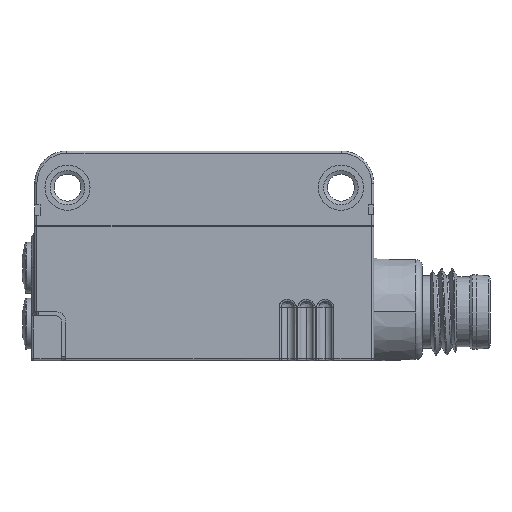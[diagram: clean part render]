
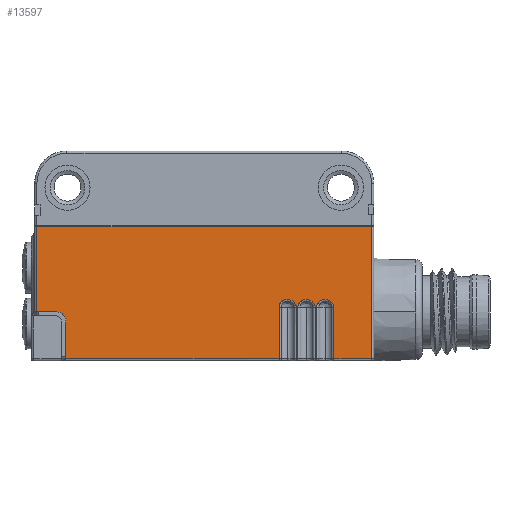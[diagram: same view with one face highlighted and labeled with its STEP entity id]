
A CAD part, left-side view. The second image highlights one B-rep face of the part: STEP entity #13597.
In plain terms, the highlighted planar face has unit normal (-1, 0, 0).
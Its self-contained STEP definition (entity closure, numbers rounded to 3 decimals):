
#2734=LINE('',#73193,#6713);
#4040=LINE('',#84570,#8325);
#4041=LINE('',#84572,#8326);
#4042=LINE('',#84589,#8327);
#4043=LINE('',#84591,#8328);
#4044=LINE('',#84593,#8329);
#4045=LINE('',#84610,#8330);
#4046=LINE('',#84612,#8331);
#4047=LINE('',#84614,#8332);
#4048=LINE('',#84631,#8333);
#4049=LINE('',#84633,#8334);
#4050=LINE('',#84635,#8335);
#4051=LINE('',#84637,#8336);
#4052=LINE('',#84639,#8337);
#6713=VECTOR('',#54893,1.);
#8325=VECTOR('',#57787,1.);
#8326=VECTOR('',#57790,1.);
#8327=VECTOR('',#57791,1.);
#8328=VECTOR('',#57792,1.);
#8329=VECTOR('',#57793,1.);
#8330=VECTOR('',#57794,1.);
#8331=VECTOR('',#57795,1.);
#8332=VECTOR('',#57796,1.);
#8333=VECTOR('',#57797,1.);
#8334=VECTOR('',#57798,1.);
#8335=VECTOR('',#57799,1.);
#8336=VECTOR('',#57800,1.);
#8337=VECTOR('',#57801,1.);
#10831=CIRCLE('',#49106,1.);
#10857=CIRCLE('',#49145,1309.533);
#13597=ADVANCED_FACE('',(#17391),#15313,.T.);
#15313=PLANE('',#49746);
#17391=FACE_OUTER_BOUND('',#20023,.T.);
#20023=EDGE_LOOP('',(#28780,#28781,#28782,#28783,#28784,#28785,#28786,#28787,
#28788,#28789,#28790,#28791,#28792,#28793,#28794,#28795,#28796,#28797,#28798));
#28780=ORIENTED_EDGE('',*,*,#41405,.F.);
#28781=ORIENTED_EDGE('',*,*,#41329,.F.);
#28782=ORIENTED_EDGE('',*,*,#41315,.F.);
#28783=ORIENTED_EDGE('',*,*,#43454,.T.);
#28784=ORIENTED_EDGE('',*,*,#43455,.T.);
#28785=ORIENTED_EDGE('',*,*,#43456,.T.);
#28786=ORIENTED_EDGE('',*,*,#43457,.T.);
#28787=ORIENTED_EDGE('',*,*,#43458,.T.);
#28788=ORIENTED_EDGE('',*,*,#43459,.T.);
#28789=ORIENTED_EDGE('',*,*,#43460,.T.);
#28790=ORIENTED_EDGE('',*,*,#43461,.T.);
#28791=ORIENTED_EDGE('',*,*,#43462,.T.);
#28792=ORIENTED_EDGE('',*,*,#43463,.T.);
#28793=ORIENTED_EDGE('',*,*,#43464,.T.);
#28794=ORIENTED_EDGE('',*,*,#43465,.T.);
#28795=ORIENTED_EDGE('',*,*,#43466,.T.);
#28796=ORIENTED_EDGE('',*,*,#43467,.T.);
#28797=ORIENTED_EDGE('',*,*,#43468,.F.);
#28798=ORIENTED_EDGE('',*,*,#43469,.T.);
#36115=VERTEX_POINT('',#73192);
#36116=VERTEX_POINT('',#73194);
#36126=VERTEX_POINT('',#73344);
#36191=VERTEX_POINT('',#73656);
#37522=VERTEX_POINT('',#84569);
#37523=VERTEX_POINT('',#84573);
#37524=VERTEX_POINT('',#84588);
#37525=VERTEX_POINT('',#84590);
#37526=VERTEX_POINT('',#84592);
#37527=VERTEX_POINT('',#84594);
#37528=VERTEX_POINT('',#84609);
#37529=VERTEX_POINT('',#84611);
#37530=VERTEX_POINT('',#84613);
#37531=VERTEX_POINT('',#84615);
#37532=VERTEX_POINT('',#84630);
#37533=VERTEX_POINT('',#84632);
#37534=VERTEX_POINT('',#84634);
#37535=VERTEX_POINT('',#84636);
#37536=VERTEX_POINT('',#84638);
#41315=EDGE_CURVE('',#36115,#36116,#2734,.T.);
#41329=EDGE_CURVE('',#36116,#36126,#10831,.T.);
#41405=EDGE_CURVE('',#36126,#36191,#10857,.T.);
#43454=EDGE_CURVE('',#36115,#37522,#4040,.T.);
#43455=EDGE_CURVE('',#37522,#37523,#4041,.T.);
#43456=EDGE_CURVE('',#37523,#37524,#47684,.T.);
#43457=EDGE_CURVE('',#37524,#37525,#4042,.T.);
#43458=EDGE_CURVE('',#37525,#37526,#4043,.T.);
#43459=EDGE_CURVE('',#37526,#37527,#4044,.T.);
#43460=EDGE_CURVE('',#37527,#37528,#47685,.T.);
#43461=EDGE_CURVE('',#37528,#37529,#4045,.T.);
#43462=EDGE_CURVE('',#37529,#37530,#4046,.T.);
#43463=EDGE_CURVE('',#37530,#37531,#4047,.T.);
#43464=EDGE_CURVE('',#37531,#37532,#47686,.T.);
#43465=EDGE_CURVE('',#37532,#37533,#4048,.T.);
#43466=EDGE_CURVE('',#37533,#37534,#4049,.T.);
#43467=EDGE_CURVE('',#37534,#37535,#4050,.T.);
#43468=EDGE_CURVE('',#37536,#37535,#4051,.T.);
#43469=EDGE_CURVE('',#37536,#36191,#4052,.T.);
#47684=B_SPLINE_CURVE_WITH_KNOTS('',3,(#84574,#84575,#84576,#84577,#84578,
#84579,#84580,#84581,#84582,#84583,#84584,#84585,#84586,#84587),
 .UNSPECIFIED.,.F.,.F.,(4,2,2,2,2,2,4),(0.,0.125,0.25,0.5,0.75,0.875,1.),
 .UNSPECIFIED.);
#47685=B_SPLINE_CURVE_WITH_KNOTS('',3,(#84595,#84596,#84597,#84598,#84599,
#84600,#84601,#84602,#84603,#84604,#84605,#84606,#84607,#84608),
 .UNSPECIFIED.,.F.,.F.,(4,2,2,2,2,2,4),(0.,0.125,0.25,0.5,0.75,0.875,1.),
 .UNSPECIFIED.);
#47686=B_SPLINE_CURVE_WITH_KNOTS('',3,(#84616,#84617,#84618,#84619,#84620,
#84621,#84622,#84623,#84624,#84625,#84626,#84627,#84628,#84629),
 .UNSPECIFIED.,.F.,.F.,(4,2,2,2,2,2,4),(0.,0.125,0.25,0.5,0.75,0.875,1.),
 .UNSPECIFIED.);
#49106=AXIS2_PLACEMENT_3D('',#73343,#54902,#54903);
#49145=AXIS2_PLACEMENT_3D('',#73655,#55018,#55019);
#49746=AXIS2_PLACEMENT_3D('',#84640,#57802,#57803);
#54893=DIRECTION('',(0.,0.,1.));
#54902=DIRECTION('',(-1.,0.,0.));
#54903=DIRECTION('',(0.,-1.,0.));
#55018=DIRECTION('',(1.,0.,0.));
#55019=DIRECTION('',(0.,1.,0.));
#57787=DIRECTION('',(0.,-1.,0.));
#57790=DIRECTION('',(0.,0.,1.));
#57791=DIRECTION('',(0.,0.,-1.));
#57792=DIRECTION('',(0.,-1.,0.));
#57793=DIRECTION('',(0.,0.,1.));
#57794=DIRECTION('',(0.,0.,-1.));
#57795=DIRECTION('',(0.,-1.,0.));
#57796=DIRECTION('',(0.,0.,1.));
#57797=DIRECTION('',(0.,0.,-1.));
#57798=DIRECTION('',(0.,-1.,0.));
#57799=DIRECTION('',(0.,0.,1.));
#57800=DIRECTION('',(0.,-1.,0.));
#57801=DIRECTION('',(0.,0.,-1.));
#57802=DIRECTION('',(-1.,0.,0.));
#57803=DIRECTION('',(0.,1.,0.));
#73192=CARTESIAN_POINT('',(-5.4,12.85,-19.3));
#73193=CARTESIAN_POINT('',(-5.4,12.85,-14.898));
#73194=CARTESIAN_POINT('',(-5.4,12.85,-15.9));
#73343=CARTESIAN_POINT('',(-5.4,13.85,-15.9));
#73344=CARTESIAN_POINT('',(-5.4,13.851,-14.9));
#73655=CARTESIAN_POINT('',(-5.4,14.985,1294.633));
#73656=CARTESIAN_POINT('',(-5.4,15.55,-14.9));
#84569=CARTESIAN_POINT('',(-5.4,-6.955,-19.3));
#84570=CARTESIAN_POINT('',(-5.4,2.473,-19.3));
#84572=CARTESIAN_POINT('',(-5.4,-6.955,-16.9));
#84573=CARTESIAN_POINT('',(-5.4,-6.955,-14.5));
#84574=CARTESIAN_POINT('',(-5.4,-6.955,-14.5));
#84575=CARTESIAN_POINT('',(-5.4,-6.955,-14.4));
#84576=CARTESIAN_POINT('',(-5.4,-6.983,-14.303));
#84577=CARTESIAN_POINT('',(-5.4,-7.072,-14.127));
#84578=CARTESIAN_POINT('',(-5.4,-7.135,-14.048));
#84579=CARTESIAN_POINT('',(-5.4,-7.356,-13.852));
#84580=CARTESIAN_POINT('',(-5.4,-7.552,-13.777));
#84581=CARTESIAN_POINT('',(-5.4,-7.947,-13.777));
#84582=CARTESIAN_POINT('',(-5.4,-8.143,-13.85));
#84583=CARTESIAN_POINT('',(-5.4,-8.366,-14.048));
#84584=CARTESIAN_POINT('',(-5.4,-8.427,-14.126));
#84585=CARTESIAN_POINT('',(-5.4,-8.517,-14.303));
#84586=CARTESIAN_POINT('',(-5.4,-8.545,-14.4));
#84587=CARTESIAN_POINT('',(-5.4,-8.545,-14.5));
#84588=CARTESIAN_POINT('',(-5.4,-8.545,-14.5));
#84589=CARTESIAN_POINT('',(-5.4,-8.545,-16.9));
#84590=CARTESIAN_POINT('',(-5.4,-8.545,-19.3));
#84591=CARTESIAN_POINT('',(-5.4,-8.625,-19.3));
#84592=CARTESIAN_POINT('',(-5.4,-8.705,-19.3));
#84593=CARTESIAN_POINT('',(-5.4,-8.705,-16.9));
#84594=CARTESIAN_POINT('',(-5.4,-8.705,-14.5));
#84595=CARTESIAN_POINT('',(-5.4,-8.705,-14.5));
#84596=CARTESIAN_POINT('',(-5.4,-8.705,-14.4));
#84597=CARTESIAN_POINT('',(-5.4,-8.733,-14.303));
#84598=CARTESIAN_POINT('',(-5.4,-8.822,-14.127));
#84599=CARTESIAN_POINT('',(-5.4,-8.885,-14.048));
#84600=CARTESIAN_POINT('',(-5.4,-9.106,-13.852));
#84601=CARTESIAN_POINT('',(-5.4,-9.302,-13.777));
#84602=CARTESIAN_POINT('',(-5.4,-9.697,-13.777));
#84603=CARTESIAN_POINT('',(-5.4,-9.893,-13.85));
#84604=CARTESIAN_POINT('',(-5.4,-10.116,-14.048));
#84605=CARTESIAN_POINT('',(-5.4,-10.177,-14.126));
#84606=CARTESIAN_POINT('',(-5.4,-10.267,-14.303));
#84607=CARTESIAN_POINT('',(-5.4,-10.295,-14.4));
#84608=CARTESIAN_POINT('',(-5.4,-10.295,-14.5));
#84609=CARTESIAN_POINT('',(-5.4,-10.295,-14.5));
#84610=CARTESIAN_POINT('',(-5.4,-10.295,-16.9));
#84611=CARTESIAN_POINT('',(-5.4,-10.295,-19.3));
#84612=CARTESIAN_POINT('',(-5.4,-10.375,-19.3));
#84613=CARTESIAN_POINT('',(-5.4,-10.455,-19.3));
#84614=CARTESIAN_POINT('',(-5.4,-10.455,-16.9));
#84615=CARTESIAN_POINT('',(-5.4,-10.455,-14.5));
#84616=CARTESIAN_POINT('',(-5.4,-10.455,-14.5));
#84617=CARTESIAN_POINT('',(-5.4,-10.455,-14.4));
#84618=CARTESIAN_POINT('',(-5.4,-10.483,-14.303));
#84619=CARTESIAN_POINT('',(-5.4,-10.572,-14.127));
#84620=CARTESIAN_POINT('',(-5.4,-10.635,-14.048));
#84621=CARTESIAN_POINT('',(-5.4,-10.856,-13.852));
#84622=CARTESIAN_POINT('',(-5.4,-11.052,-13.777));
#84623=CARTESIAN_POINT('',(-5.4,-11.447,-13.777));
#84624=CARTESIAN_POINT('',(-5.4,-11.643,-13.85));
#84625=CARTESIAN_POINT('',(-5.4,-11.866,-14.048));
#84626=CARTESIAN_POINT('',(-5.4,-11.927,-14.126));
#84627=CARTESIAN_POINT('',(-5.4,-12.017,-14.303));
#84628=CARTESIAN_POINT('',(-5.4,-12.045,-14.4));
#84629=CARTESIAN_POINT('',(-5.4,-12.045,-14.5));
#84630=CARTESIAN_POINT('',(-5.4,-12.045,-14.5));
#84631=CARTESIAN_POINT('',(-5.4,-12.045,-16.9));
#84632=CARTESIAN_POINT('',(-5.4,-12.045,-19.3));
#84633=CARTESIAN_POINT('',(-5.4,-13.798,-19.3));
#84634=CARTESIAN_POINT('',(-5.4,-15.55,-19.3));
#84635=CARTESIAN_POINT('',(-5.4,-15.55,-13.15));
#84636=CARTESIAN_POINT('',(-5.4,-15.55,-7.));
#84637=CARTESIAN_POINT('',(-5.4,0.,-7.));
#84638=CARTESIAN_POINT('',(-5.4,15.55,-7.));
#84639=CARTESIAN_POINT('',(-5.4,15.55,-10.15));
#84640=CARTESIAN_POINT('',(-5.4,15.75,-7.));
